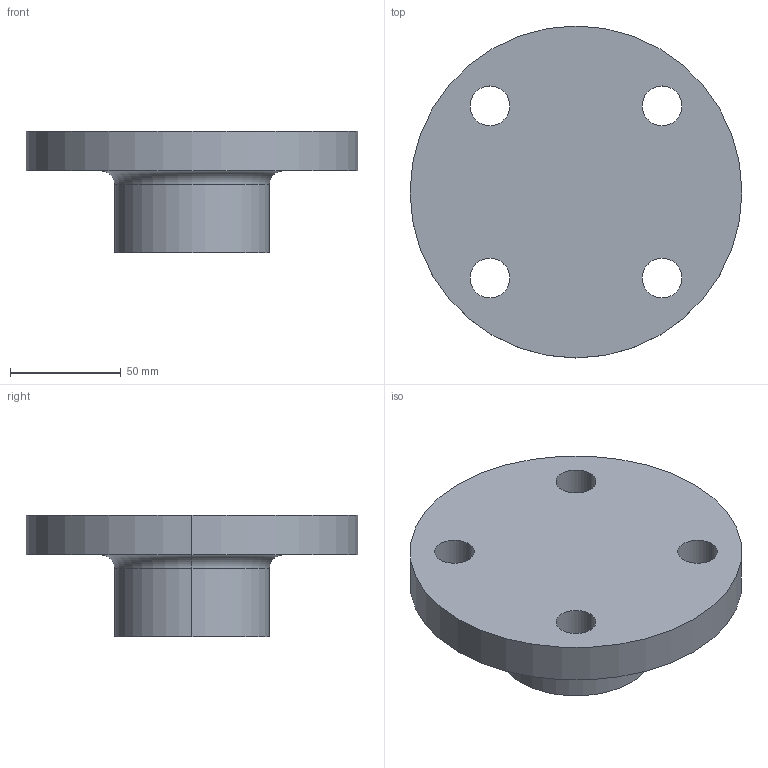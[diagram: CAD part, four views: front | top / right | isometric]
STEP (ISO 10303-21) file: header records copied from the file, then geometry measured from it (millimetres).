
FILE_DESCRIPTION (( 'STEP AP214' ), '1' );
FILE_NAME ('PN40 DN40 Type 21(i) - Type A Face.STEP', '2018-12-30T01:33:05', ( '' ), ( '' ), 'SwSTEP 2.0', 'SolidWorks 2019', '' );
FILE_SCHEMA (( 'AUTOMOTIVE_DESIGN' ));
Length unit declared in the file: millimetre
Products named in the file (1): PN40 DN40 Type 21(i) - Type A Face
Bounding box: 150 x 150 x 55 mm (x, y, z)
Volume: 443921.2 mm3; surface area: 53447.4 mm2
Topology: 1 solids, 1 shells, 17 faces, 40 edges, 26 vertices
Faces by surface type: cylinder 12, plane 3, torus 2
Entity records: 556 total; most frequent: DIRECTION 104, CARTESIAN_POINT 84, ORIENTED_EDGE 80, AXIS2_PLACEMENT_3D 46, EDGE_CURVE 40, CIRCLE 28, EDGE_LOOP 26, VERTEX_POINT 26
